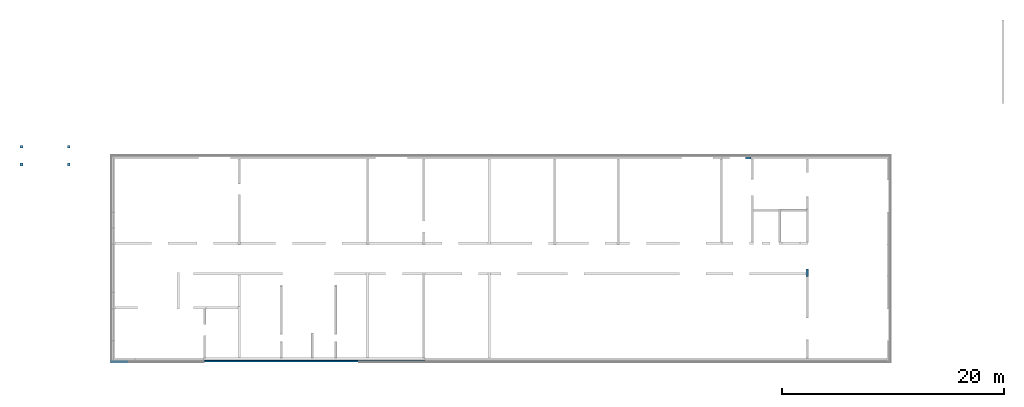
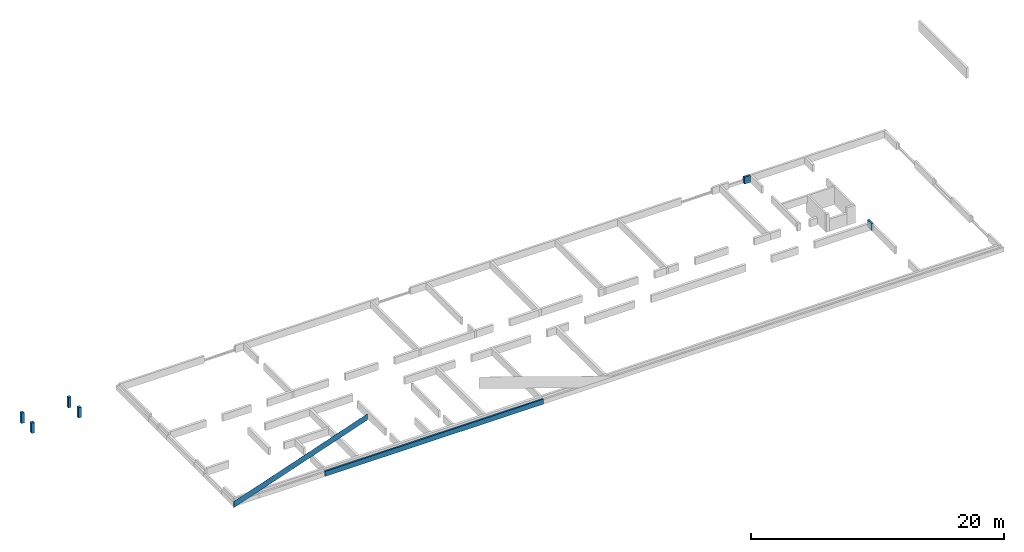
# One storey, part 2 of 7: 6 walls, 2 beams.
"""IFC2X3 building model written with IfcOpenShell, lengths in millimetres."""

from ifc_helpers import new_model, entity, si_unit, converted_unit, derived_unit, money_unit, direction, frame, origin_with_axes, place, context, subcontext, project, spatial, polyline, outline, extrude, faceted_brep, material, layer, layer_set, layer_usage, type_object, element, save


model = new_model("IFC2X3")

# Units and contexts
model_context = context("Model", 3, precision=0.01, world=origin_with_axes(), true_north=direction((0.0, 1.0)))
body_context = subcontext(model_context, "Body", "Model", "MODEL_VIEW")
ifc_project = project(units=[si_unit("LENGTHUNIT", "METRE", prefix="MILLI"), si_unit("AREAUNIT", "SQUARE_METRE"), si_unit("VOLUMEUNIT", "CUBIC_METRE"), converted_unit("PLANEANGLEUNIT", "DEGREE", entity("IfcPlaneAngleMeasure", 0.0174532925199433), si_unit("PLANEANGLEUNIT", "RADIAN"), dimensions=[0, 0, 0, 0, 0, 0, 0]), money_unit("EUR"), converted_unit("TIMEUNIT", "Year", entity("IfcTimeMeasure", 31556926.0), si_unit("TIMEUNIT", "SECOND"), dimensions=[0, 0, 1, 0, 0, 0, 0]), si_unit("MASSUNIT", "GRAM", prefix="KILO"), si_unit("THERMODYNAMICTEMPERATUREUNIT", "DEGREE_CELSIUS"), si_unit("LUMINOUSINTENSITYUNIT", "LUMEN"), si_unit("ENERGYUNIT", "JOULE", prefix="MEGA"), derived_unit("THERMALCONDUCTANCEUNIT", [(si_unit("POWERUNIT", "WATT"), 1), (si_unit("LENGTHUNIT", "METRE"), -1), (si_unit("THERMODYNAMICTEMPERATUREUNIT", "KELVIN"), -1)]), derived_unit("SPECIFICHEATCAPACITYUNIT", [(si_unit("ENERGYUNIT", "JOULE"), 1), (si_unit("MASSUNIT", "GRAM", prefix="KILO"), -1), (si_unit("THERMODYNAMICTEMPERATUREUNIT", "KELVIN"), -1)]), derived_unit("MASSDENSITYUNIT", [(si_unit("MASSUNIT", "GRAM", prefix="KILO"), 1), (si_unit("VOLUMEUNIT", "CUBIC_METRE"), -1)])], contexts=[model_context])

# Site, building, storey
site_placement = place(None, origin_with_axes())
site = spatial("IfcSite", under=ifc_project, at=site_placement, Name="ÜBN Kinnistu Nimi -> SOLIBRI", CompositionType="ELEMENT")
building_placement = place(site_placement, origin_with_axes())
building = spatial("IfcBuilding", under=site, at=building_placement, Name="METK ARETUSKESKUS II", CompositionType="ELEMENT")
storey_placement = place(building_placement, frame((0.0, 0.0, -1610.0), z_axis=(0.0, 0.0, 1.0), x_axis=(1.0, 0.0, 0.0)))
storey = spatial("IfcBuildingStorey", under=building, at=storey_placement, Name="Vundament", CompositionType="ELEMENT", Elevation=-1610.0)

# Beams
ifc_material_1 = material(Name="31 Konst: raudbetoon monoliitne")
beam_type_1 = type_object("IfcBeamType", Name="31 Konst: raudbetoon monoliitne 180", PredefinedType="BEAM")
beam_1_placement = place(storey_placement, frame((82485.00000572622, 27734.99995853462, 1330.0), z_axis=(0.0, 0.0, 1.0), x_axis=(0.0, 1.0, 0.0)))
element("IfcBeam", 1, at=beam_1_placement, inside=storey, type_object=beam_type_1, material=ifc_material_1, ObjectType="BEAM", context=body_context, shape_type="Brep", body=[
    faceted_brep([(-330.0000000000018, 180.0000000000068, 680.0000000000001), (-330.0000000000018, 0.0, 680.0000000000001), (325.000048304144, 0.0, 680.0000000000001), (325.000048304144, 180.0000000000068, 680.0000000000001), (-330.0000000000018, 180.0000000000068, 0.0), (-330.0000000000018, 0.0, 0.0), (325.000048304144, 0.0, 0.0), (325.000048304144, 180.0000000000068, 0.0)], [[[0, 1, 2, 3]], [[4, 5, 1, 0]], [[1, 5, 6, 2]], [[7, 3, 2, 6]], [[4, 0, 3, 7]], [[5, 4, 7, 6]]]),
])
beam_type_2 = type_object("IfcBeamType", Name="31 Konst: raudbetoon monoliitne 190", PredefinedType="BEAM")
beam_2_placement = place(storey_placement, frame((77345.00000107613, 37970.00000699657, 1330.0), z_axis=(0.0, 0.0, 1.0), x_axis=(-1.0, 0.0, 0.0)))
element("IfcBeam", 2, at=beam_2_placement, inside=storey, type_object=beam_type_2, material=ifc_material_1, ObjectType="BEAM", context=body_context, shape_type="Brep", body=[
    faceted_brep([(0.0, 0.0, 0.0), (535.0000010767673, 0.0, 0.0), (535.0000010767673, -189.9999999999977, 0.0), (0.0, -189.9999999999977, 0.0), (0.0, 0.0, 680.0000000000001), (535.0000010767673, 0.0, 680.0000000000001), (535.0000010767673, -189.9999999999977, 680.0000000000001), (0.0, -189.9999999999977, 680.0000000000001)], [[[0, 1, 2, 3]], [[4, 5, 1, 0]], [[2, 1, 5, 6]], [[3, 2, 6, 7]], [[4, 0, 3, 7]], [[7, 6, 5, 4]]]),
])

# Walls
ifc_material_2 = material(Name="92 Viim: betoonlasuur")
wall_type_1 = type_object("IfcWallType", Name="VS-01b 10", PredefinedType="NOTDEFINED")
wall_1_placement = place(storey_placement, frame((31860.00700854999, 19690.0, 0.0), z_axis=(0.0, 0.0, 1.0), x_axis=(-1.0, 0.0, 0.0)))
element("IfcWall", 3, at=wall_1_placement, inside=storey, type_object=wall_type_1, material=ifc_material_2, Name="VS-01b", context=body_context, shape_type="Brep", body=[
    faceted_brep([(12180.00700854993, 0.0, 1834.084521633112), (0.0, 0.0, 6027.997264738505), (0.0, 0.0, 5428.111098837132), (12180.00700854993, 0.0, 1234.19835573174), (0.0, 10.00000000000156, 6027.997264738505), (12180.00700854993, 9.99999999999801, 1834.084521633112), (0.0, 10.00000000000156, 5428.111098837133), (12180.00700854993, 9.99999999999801, 1234.19835573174)], [[[0, 1, 2, 3]], [[4, 1, 0, 5]], [[1, 4, 6, 2]], [[7, 3, 2, 6]], [[5, 0, 3, 7]], [[4, 5, 7, 6]]]),
])
ifc_material_3 = material(Name="50 Soojustus: XPS")
wall_type_2 = type_object("IfcWallType", Name="VS-01_KURMIK 150", PredefinedType="NOTDEFINED")
wall_2_placement = place(storey_placement, frame((28010.00000190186, 19840.0, 1330.0), z_axis=(0.0, 0.0, 1.0), x_axis=(1.0, 0.0, 0.0)))
element("IfcWall", 4, at=wall_2_placement, inside=storey, type_object=wall_type_2, material=ifc_material_3, Name="VS-01", context=body_context, shape_type="Brep", body=[
    faceted_brep([(19930.00000098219, 0.0, 0.0), (19930.00000098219, -149.9999999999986, 0.0), (0.0, -149.9999999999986, 0.0), (0.0, 0.0, 0.0), (19930.00000098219, 0.0, 485.0000723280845), (19930.00000098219, -149.9999999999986, 485.0000723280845), (0.0, -149.9999999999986, 485.0000723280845), (0.0, 0.0, 485.0000723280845)], [[[0, 1, 2, 3]], [[0, 4, 5, 1]], [[1, 5, 6, 2]], [[3, 2, 6, 7]], [[4, 0, 3, 7]], [[5, 4, 7, 6]]]),
])
ifc_material_4 = material(Name="30 Konst: Raudbetoon monoliitne")
ifc_layer = layer(ifc_material_4, 250.0, ventilated="UNKNOWN")
ifc_layer_set = layer_set([ifc_layer], Name="30 Konst: Raudbetoon monoliitne 250")
ifc_layer_usage_1 = layer_usage(ifc_layer_set, "AXIS2", "POSITIVE", -125.0)
wall_type_3 = type_object("IfcWallType", Name="30 Konst: Raudbetoon monoliitne 250", PredefinedType="NOTDEFINED")
wall_3_placement = place(storey_placement, frame((11581.00608183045, 38950.00301555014, 545.0000210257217), z_axis=(0.0, 0.0, 1.0), x_axis=(0.0, 1.0, 0.0)))
element("IfcWallStandardCase", 5, at=wall_3_placement, inside=storey, type_object=wall_type_3, material=ifc_layer_usage_1, context=body_context, shape_type="SweptSolid", body=[
    extrude(outline(polyline([(0.0, -125.0), (250.0, -125.0), (250.0, 125.0), (0.0, 125.0), (0.0, -125.0)])), origin_with_axes(), (0.0, 0.0, 1.0), 1000.0),
])
ifc_layer_usage_2 = layer_usage(ifc_layer_set, "AXIS2", "POSITIVE", -125.0)
wall_4_placement = place(storey_placement, frame((11581.00608183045, 37350.00301555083, 545.0000210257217), z_axis=(0.0, 0.0, 1.0), x_axis=(0.0, 1.0, 0.0)))
element("IfcWallStandardCase", 6, at=wall_4_placement, inside=storey, type_object=wall_type_3, material=ifc_layer_usage_2, context=body_context, shape_type="SweptSolid", body=[
    extrude(outline(polyline([(0.0, -125.0), (250.0, -125.0), (250.0, 125.0), (0.0, 125.0), (0.0, -125.0)])), origin_with_axes(), (0.0, 0.0, 1.0), 1000.0),
])
ifc_layer_usage_3 = layer_usage(ifc_layer_set, "AXIS2", "POSITIVE", -125.0)
wall_5_placement = place(storey_placement, frame((15856.00608192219, 37350.00301555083, 545.0000210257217), z_axis=(0.0, 0.0, 1.0), x_axis=(0.0, 1.0, 0.0)))
element("IfcWallStandardCase", 7, at=wall_5_placement, inside=storey, type_object=wall_type_3, material=ifc_layer_usage_3, context=body_context, shape_type="SweptSolid", body=[
    extrude(outline(polyline([(0.0, -125.0), (250.0, -125.0), (250.0, 125.0), (0.0, 125.0), (0.0, -125.0)])), origin_with_axes(), (0.0, 0.0, 1.0), 1000.0),
])
ifc_layer_usage_4 = layer_usage(ifc_layer_set, "AXIS2", "POSITIVE", -125.0)
wall_6_placement = place(storey_placement, frame((15856.00608192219, 38950.00301555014, 545.0000210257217), z_axis=(0.0, 0.0, 1.0), x_axis=(0.0, 1.0, 0.0)))
element("IfcWallStandardCase", 8, at=wall_6_placement, inside=storey, type_object=wall_type_3, material=ifc_layer_usage_4, context=body_context, shape_type="SweptSolid", body=[
    extrude(outline(polyline([(0.0, -125.0), (250.0, -125.0), (250.0, 125.0), (0.0, 125.0), (0.0, -125.0)])), origin_with_axes(), (0.0, 0.0, 1.0), 1000.0),
])

save(model, "model.ifc")
